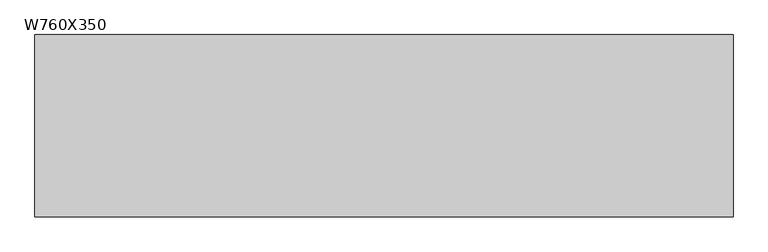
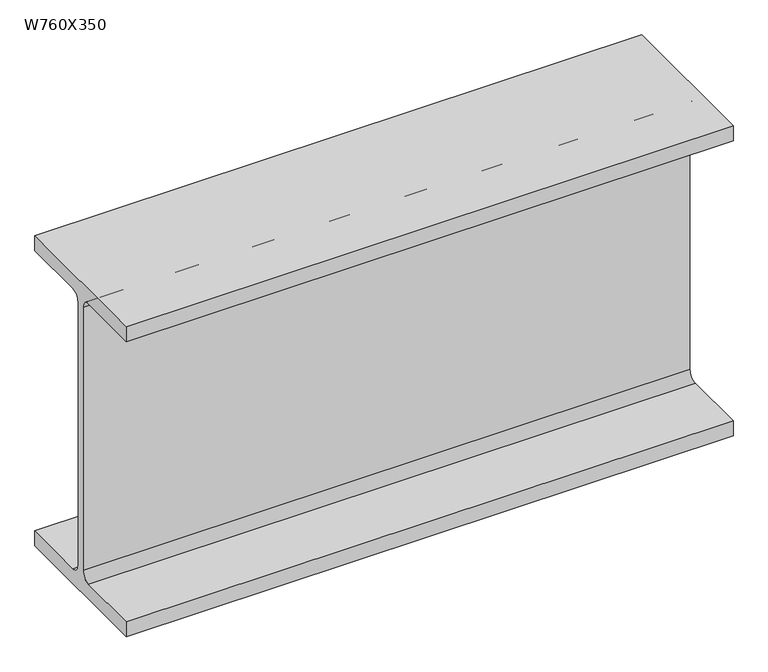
"""IFC4 building model written with IfcOpenShell, lengths in millimetres: beam geometry, M_W-Wide Flange : W760X350."""

from ifc_helpers import new_model, si_unit, point, frame, frame_2d, origin, place, context, project, spatial, polyline, circle_curve, trimmed, segment, composite_curve, outline, extrude, source, transform, mapped, element, save


def w760x350_eb8f40b6(model_context):
    return source(origin(), model_context, "Body", "SweptSolid", [
        extrude(outline(composite_curve([segment(polyline([(192.0, -359.4), (192.0, -397.5), (-192.0, -397.5), (-192.0, -359.4), (-32.75, -359.4)]), True, "CONTINUOUS"), segment(trimmed(circle_curve(frame_2d((-32.75, -337.2)), 22.2), [point((-32.75, -359.4))], [point((-10.55, -337.2))], True, "CARTESIAN"), True, "CONTINUOUS"), segment(polyline([(-10.55, -337.2), (-10.55, 337.2)]), True, "CONTINUOUS"), segment(trimmed(circle_curve(frame_2d((-32.75, 337.2)), 22.2), [point((-10.55, 337.2))], [point((-32.75, 359.4))], True, "CARTESIAN"), True, "CONTINUOUS"), segment(polyline([(-32.75, 359.4), (-192.0, 359.4), (-192.0, 397.5), (192.0, 397.5), (192.0, 359.4), (32.75, 359.4)]), True, "CONTINUOUS"), segment(trimmed(circle_curve(frame_2d((32.75, 337.2)), 22.2), [point((32.75, 359.4))], [point((10.55, 337.2))], True, "CARTESIAN"), True, "CONTINUOUS"), segment(polyline([(10.55, 337.2), (10.55, -337.2)]), True, "CONTINUOUS"), segment(trimmed(circle_curve(frame_2d((32.75, -337.2)), 22.2), [point((10.55, -337.2))], [point((32.75, -359.4))], True, "CARTESIAN"), True, "CONTINUOUS"), segment(polyline([(32.75, -359.4), (192.0, -359.4)]), True, "CONTINUOUS")], self_intersect=False)), frame((-735.9491096, 0.0, 0.0), z_axis=(1.0, 0.0, 0.0), x_axis=(0.0, 1.0, 0.0)), (0.0, 0.0, 1.0), 1471.8982193),
    ])


if __name__ == "__main__":
    model = new_model("IFC4")
    model_context = context("Model", 3, world=origin())
    ifc_project = project(units=[si_unit("LENGTHUNIT", "METRE", prefix="MILLI")], contexts=[model_context])
    site = spatial("IfcSite", under=ifc_project)
    building = spatial("IfcBuilding", under=site)
    placement = place(None, origin())
    w760x350_shape = w760x350_eb8f40b6(model_context)
    element("IfcBeam", 1, ObjectType="M_W-Wide Flange : W760X350", at=placement, inside=building, context=model_context, shape_type="MappedRepresentation", body=[
        mapped(w760x350_shape, transform((0.0, 0.0, 0.0), x_axis=(1.0, 0.0, 0.0), y_axis=(0.0, 1.0, 0.0), z_axis=(0.0, 0.0, 1.0))),
    ])
    save(model, "model.ifc")
